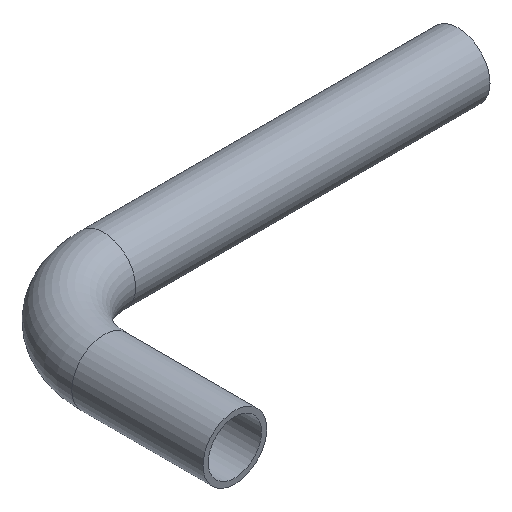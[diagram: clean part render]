
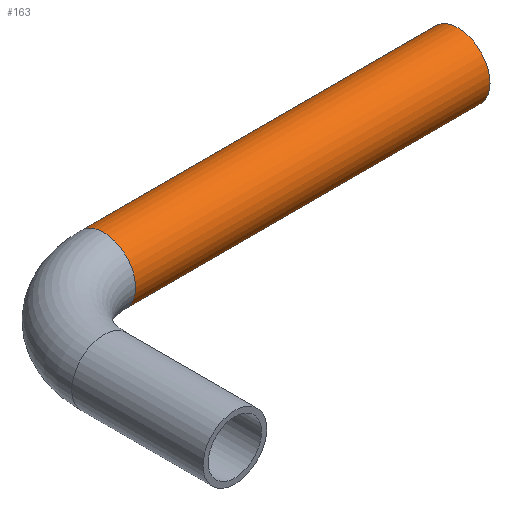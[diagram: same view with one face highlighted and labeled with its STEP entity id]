
A CAD part, isometric view. The second image highlights one B-rep face of the part: STEP entity #163.
In plain terms, the highlighted cylindrical face has radius 9 mm (diameter 18 mm), a full revolution.
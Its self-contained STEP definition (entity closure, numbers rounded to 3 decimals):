
#136=CARTESIAN_POINT('',(0.,25.0,0.0));
#137=DIRECTION('',(1.0,0.,0.0));
#138=DIRECTION('',(0.0,-1.0,0.0));
#139=AXIS2_PLACEMENT_3D('',#136,#137,#138);
#140=CYLINDRICAL_SURFACE('',#139,9.0);
#141=CARTESIAN_POINT('',(100.0,34.0,0.));
#142=VERTEX_POINT('',#141);
#143=CARTESIAN_POINT('',(100.0,25.,0.0));
#144=DIRECTION('',(-1.0,0.0,0.0));
#145=DIRECTION('',(0.0,-1.0,0.0));
#146=AXIS2_PLACEMENT_3D('',#143,#144,#145);
#147=CIRCLE('',#146,9.0);
#148=EDGE_CURVE('',#142,#142,#147,.T.);
#149=ORIENTED_EDGE('',*,*,#148,.T.);
#150=EDGE_LOOP('',(#149));
#151=FACE_OUTER_BOUND('',#150,.T.);
#152=CARTESIAN_POINT('',(0.,34.0,0.));
#153=VERTEX_POINT('',#152);
#154=CARTESIAN_POINT('',(0.,25.0,0.0));
#155=DIRECTION('',(-1.0,0.0,0.0));
#156=DIRECTION('',(0.0,-1.0,0.0));
#157=AXIS2_PLACEMENT_3D('',#154,#155,#156);
#158=CIRCLE('',#157,9.0);
#159=EDGE_CURVE('',#153,#153,#158,.T.);
#160=ORIENTED_EDGE('',*,*,#159,.F.);
#161=EDGE_LOOP('',(#160));
#162=FACE_BOUND('',#161,.T.);
#163=ADVANCED_FACE('',(#151,#162),#140,.T.);
